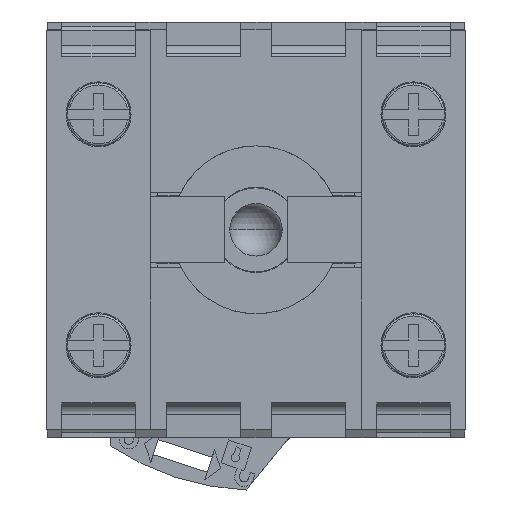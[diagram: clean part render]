
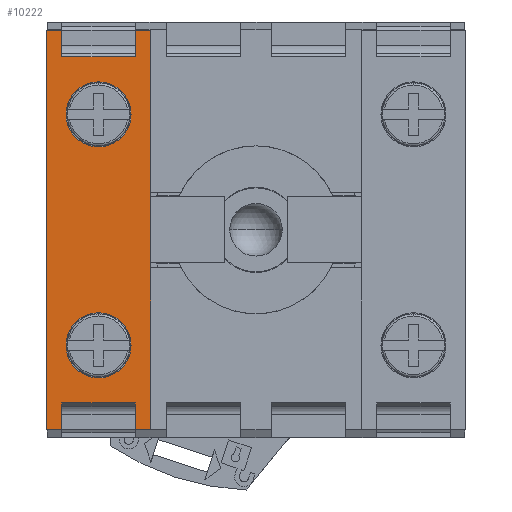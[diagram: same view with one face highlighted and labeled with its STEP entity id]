
A CAD part, front view. The second image highlights one B-rep face of the part: STEP entity #10222.
In plain terms, the highlighted planar face has unit normal (0, -1, 0).
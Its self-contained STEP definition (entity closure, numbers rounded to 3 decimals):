
#9 = CARTESIAN_POINT ( 'NONE',  ( 14.1, -12.75, 0. ) ) ;
#243 = VECTOR ( 'NONE', #4588, 1000. ) ;
#249 = EDGE_CURVE ( 'NONE', #427, #1012, #6688, .T. ) ;
#317 = FACE_OUTER_BOUND ( 'NONE', #6402, .T. ) ;
#342 = ORIENTED_EDGE ( 'NONE', *, *, #9353, .F. ) ;
#388 = CIRCLE ( 'NONE', #1447, 3.1 ) ;
#427 = VERTEX_POINT ( 'NONE', #6429 ) ;
#509 = CIRCLE ( 'NONE', #9492, 3.1 ) ;
#595 = VECTOR ( 'NONE', #4127, 1000. ) ;
#666 = CARTESIAN_POINT ( 'NONE',  ( 16.495, -12.75, -4.95 ) ) ;
#702 = CARTESIAN_POINT ( 'NONE',  ( -11., -12.75, 0. ) ) ;
#713 = DIRECTION ( 'NONE',  ( -1., 0., 0. ) ) ;
#880 = ORIENTED_EDGE ( 'NONE', *, *, #1096, .T. ) ;
#936 = DIRECTION ( 'NONE',  ( 1., 0., 0. ) ) ;
#1012 = VERTEX_POINT ( 'NONE', #12502 ) ;
#1020 = EDGE_CURVE ( 'NONE', #11010, #6225, #1292, .T. ) ;
#1093 = DIRECTION ( 'NONE',  ( 0., 0., 1. ) ) ;
#1096 = EDGE_CURVE ( 'NONE', #3531, #4378, #12401, .T. ) ;
#1127 = DIRECTION ( 'NONE',  ( 1., 0., 0. ) ) ;
#1196 = ORIENTED_EDGE ( 'NONE', *, *, #3427, .T. ) ;
#1247 = CARTESIAN_POINT ( 'NONE',  ( 16.495, -12.75, 3.5 ) ) ;
#1292 = LINE ( 'NONE', #9093, #4354 ) ;
#1424 = EDGE_CURVE ( 'NONE', #14529, #12694, #11134, .T. ) ;
#1447 = AXIS2_PLACEMENT_3D ( 'NONE', #9442, #2605, #10600 ) ;
#1581 = DIRECTION ( 'NONE',  ( 0., 0., 1. ) ) ;
#1799 = AXIS2_PLACEMENT_3D ( 'NONE', #14384, #7538, #713 ) ;
#1840 = DIRECTION ( 'NONE',  ( 1., 0., 0. ) ) ;
#1858 = ORIENTED_EDGE ( 'NONE', *, *, #4743, .T. ) ;
#1979 = VECTOR ( 'NONE', #6881, 1000. ) ;
#2339 = LINE ( 'NONE', #5746, #1979 ) ;
#2605 = DIRECTION ( 'NONE',  ( 0., 1., 0. ) ) ;
#2618 = ORIENTED_EDGE ( 'NONE', *, *, #12886, .F. ) ;
#2675 = VERTEX_POINT ( 'NONE', #3383 ) ;
#2761 = CARTESIAN_POINT ( 'NONE',  ( -19., -12.75, 4.95 ) ) ;
#2809 = CARTESIAN_POINT ( 'NONE',  ( -11., -12.75, 0. ) ) ;
#2823 = LINE ( 'NONE', #7266, #13872 ) ;
#3383 = CARTESIAN_POINT ( 'NONE',  ( -19., -12.75, -3.5 ) ) ;
#3395 = CARTESIAN_POINT ( 'NONE',  ( -19., -12.75, -4.95 ) ) ;
#3427 = EDGE_CURVE ( 'NONE', #7968, #9108, #388, .T. ) ;
#3465 = CARTESIAN_POINT ( 'NONE',  ( 7.9, -12.75, 0. ) ) ;
#3467 = CARTESIAN_POINT ( 'NONE',  ( 16.495, -12.75, -3.5 ) ) ;
#3500 = CARTESIAN_POINT ( 'NONE',  ( -16.495, -12.75, -4.95 ) ) ;
#3531 = VERTEX_POINT ( 'NONE', #11893 ) ;
#3732 = VECTOR ( 'NONE', #8656, 1000. ) ;
#3970 = DIRECTION ( 'NONE',  ( 1., 0., 0. ) ) ;
#4006 = LINE ( 'NONE', #5216, #595 ) ;
#4062 = ORIENTED_EDGE ( 'NONE', *, *, #4760, .F. ) ;
#4127 = DIRECTION ( 'NONE',  ( -1., 0., 0. ) ) ;
#4354 = VECTOR ( 'NONE', #1093, 1000. ) ;
#4378 = VERTEX_POINT ( 'NONE', #7240 ) ;
#4531 = DIRECTION ( 'NONE',  ( -1., 0., 0. ) ) ;
#4567 = ORIENTED_EDGE ( 'NONE', *, *, #11231, .F. ) ;
#4588 = DIRECTION ( 'NONE',  ( 0., 0., -1. ) ) ;
#4695 = ORIENTED_EDGE ( 'NONE', *, *, #4951, .F. ) ;
#4743 = EDGE_CURVE ( 'NONE', #1012, #10932, #11961, .T. ) ;
#4744 = ORIENTED_EDGE ( 'NONE', *, *, #1424, .F. ) ;
#4760 = EDGE_CURVE ( 'NONE', #6392, #6225, #14629, .T. ) ;
#4951 = EDGE_CURVE ( 'NONE', #5320, #6392, #7108, .T. ) ;
#4975 = CARTESIAN_POINT ( 'NONE',  ( -19., -12.75, 3.5 ) ) ;
#5174 = CARTESIAN_POINT ( 'NONE',  ( 19., -12.75, 3.5 ) ) ;
#5216 = CARTESIAN_POINT ( 'NONE',  ( 19., -12.75, 3.5 ) ) ;
#5320 = VERTEX_POINT ( 'NONE', #4975 ) ;
#5592 = EDGE_CURVE ( 'NONE', #4378, #2675, #2339, .T. ) ;
#5622 = CARTESIAN_POINT ( 'NONE',  ( 19., -12.75, -3.5 ) ) ;
#5639 = VERTEX_POINT ( 'NONE', #1247 ) ;
#5683 = CARTESIAN_POINT ( 'NONE',  ( 19., -12.75, 4.95 ) ) ;
#5746 = CARTESIAN_POINT ( 'NONE',  ( 19., -12.75, -3.5 ) ) ;
#5933 = EDGE_CURVE ( 'NONE', #9108, #7968, #14685, .T. ) ;
#6201 = CARTESIAN_POINT ( 'NONE',  ( -7.9, -12.75, 0. ) ) ;
#6225 = VERTEX_POINT ( 'NONE', #13776 ) ;
#6310 = DIRECTION ( 'NONE',  ( -1., 0., 0. ) ) ;
#6392 = VERTEX_POINT ( 'NONE', #2761 ) ;
#6399 = LINE ( 'NONE', #666, #3732 ) ;
#6402 = EDGE_LOOP ( 'NONE', ( #2618, #14449, #4062, #4695, #4567, #880, #7962, #342, #12267, #7548, #1858, #8165 ) ) ;
#6429 = CARTESIAN_POINT ( 'NONE',  ( 19., -12.75, -4.95 ) ) ;
#6636 = PLANE ( 'NONE',  #8437 ) ;
#6688 = LINE ( 'NONE', #8429, #10104 ) ;
#6881 = DIRECTION ( 'NONE',  ( -1., 0., 0. ) ) ;
#7108 = LINE ( 'NONE', #7177, #12827 ) ;
#7177 = CARTESIAN_POINT ( 'NONE',  ( -19., -12.75, -4.95 ) ) ;
#7240 = CARTESIAN_POINT ( 'NONE',  ( -16.495, -12.75, -3.5 ) ) ;
#7243 = ORIENTED_EDGE ( 'NONE', *, *, #10011, .F. ) ;
#7266 = CARTESIAN_POINT ( 'NONE',  ( 19., -12.75, -4.95 ) ) ;
#7488 = VECTOR ( 'NONE', #11818, 1000. ) ;
#7538 = DIRECTION ( 'NONE',  ( 0., 1., 0. ) ) ;
#7548 = ORIENTED_EDGE ( 'NONE', *, *, #249, .T. ) ;
#7722 = EDGE_CURVE ( 'NONE', #5639, #10932, #6399, .T. ) ;
#7762 = DIRECTION ( 'NONE',  ( 0., -1., 0. ) ) ;
#7841 = LINE ( 'NONE', #12905, #7488 ) ;
#7962 = ORIENTED_EDGE ( 'NONE', *, *, #5592, .T. ) ;
#7968 = VERTEX_POINT ( 'NONE', #9 ) ;
#8165 = ORIENTED_EDGE ( 'NONE', *, *, #7722, .F. ) ;
#8326 = DIRECTION ( 'NONE',  ( 0., 0., 1. ) ) ;
#8429 = CARTESIAN_POINT ( 'NONE',  ( 19., -12.75, -4.95 ) ) ;
#8437 = AXIS2_PLACEMENT_3D ( 'NONE', #11132, #7762, #936 ) ;
#8556 = EDGE_LOOP ( 'NONE', ( #1196, #14402 ) ) ;
#8656 = DIRECTION ( 'NONE',  ( 0., 0., -1. ) ) ;
#8689 = DIRECTION ( 'NONE',  ( 0., -1., 0. ) ) ;
#8907 = VECTOR ( 'NONE', #4531, 1000. ) ;
#9093 = CARTESIAN_POINT ( 'NONE',  ( 19., -12.75, -4.95 ) ) ;
#9108 = VERTEX_POINT ( 'NONE', #3465 ) ;
#9353 = EDGE_CURVE ( 'NONE', #13580, #2675, #7841, .T. ) ;
#9430 = FACE_BOUND ( 'NONE', #8556, .T. ) ;
#9442 = CARTESIAN_POINT ( 'NONE',  ( 11., -12.75, 0. ) ) ;
#9492 = AXIS2_PLACEMENT_3D ( 'NONE', #2809, #10791, #3970 ) ;
#10011 = EDGE_CURVE ( 'NONE', #12694, #14529, #509, .T. ) ;
#10104 = VECTOR ( 'NONE', #1581, 1000. ) ;
#10168 = EDGE_LOOP ( 'NONE', ( #4744, #7243 ) ) ;
#10222 = ADVANCED_FACE ( 'NONE', ( #317, #12477, #9430 ), #6636, .T. ) ;
#10292 = VECTOR ( 'NONE', #6310, 1000. ) ;
#10588 = EDGE_CURVE ( 'NONE', #13580, #427, #2823, .T. ) ;
#10600 = DIRECTION ( 'NONE',  ( -1., 0., 0. ) ) ;
#10609 = CARTESIAN_POINT ( 'NONE',  ( -14.1, -12.75, 0. ) ) ;
#10653 = LINE ( 'NONE', #5174, #10292 ) ;
#10791 = DIRECTION ( 'NONE',  ( 0., -1., 0. ) ) ;
#10932 = VERTEX_POINT ( 'NONE', #3467 ) ;
#11010 = VERTEX_POINT ( 'NONE', #12703 ) ;
#11132 = CARTESIAN_POINT ( 'NONE',  ( 19., -12.75, -4.95 ) ) ;
#11134 = CIRCLE ( 'NONE', #14745, 3.1 ) ;
#11231 = EDGE_CURVE ( 'NONE', #3531, #5320, #10653, .T. ) ;
#11586 = VECTOR ( 'NONE', #1127, 1000. ) ;
#11818 = DIRECTION ( 'NONE',  ( 0., 0., 1. ) ) ;
#11893 = CARTESIAN_POINT ( 'NONE',  ( -16.495, -12.75, 3.5 ) ) ;
#11961 = LINE ( 'NONE', #5622, #8907 ) ;
#12267 = ORIENTED_EDGE ( 'NONE', *, *, #10588, .T. ) ;
#12401 = LINE ( 'NONE', #3500, #243 ) ;
#12477 = FACE_BOUND ( 'NONE', #10168, .T. ) ;
#12502 = CARTESIAN_POINT ( 'NONE',  ( 19., -12.75, -3.5 ) ) ;
#12694 = VERTEX_POINT ( 'NONE', #10609 ) ;
#12703 = CARTESIAN_POINT ( 'NONE',  ( 19., -12.75, 3.5 ) ) ;
#12827 = VECTOR ( 'NONE', #8326, 1000. ) ;
#12886 = EDGE_CURVE ( 'NONE', #11010, #5639, #4006, .T. ) ;
#12905 = CARTESIAN_POINT ( 'NONE',  ( -19., -12.75, -4.95 ) ) ;
#12959 = DIRECTION ( 'NONE',  ( 1., 0., 0. ) ) ;
#13580 = VERTEX_POINT ( 'NONE', #3395 ) ;
#13776 = CARTESIAN_POINT ( 'NONE',  ( 19., -12.75, 4.95 ) ) ;
#13872 = VECTOR ( 'NONE', #12959, 1000. ) ;
#14384 = CARTESIAN_POINT ( 'NONE',  ( 11., -12.75, 0. ) ) ;
#14402 = ORIENTED_EDGE ( 'NONE', *, *, #5933, .T. ) ;
#14449 = ORIENTED_EDGE ( 'NONE', *, *, #1020, .T. ) ;
#14529 = VERTEX_POINT ( 'NONE', #6201 ) ;
#14629 = LINE ( 'NONE', #5683, #11586 ) ;
#14685 = CIRCLE ( 'NONE', #1799, 3.1 ) ;
#14745 = AXIS2_PLACEMENT_3D ( 'NONE', #702, #8689, #1840 ) ;
